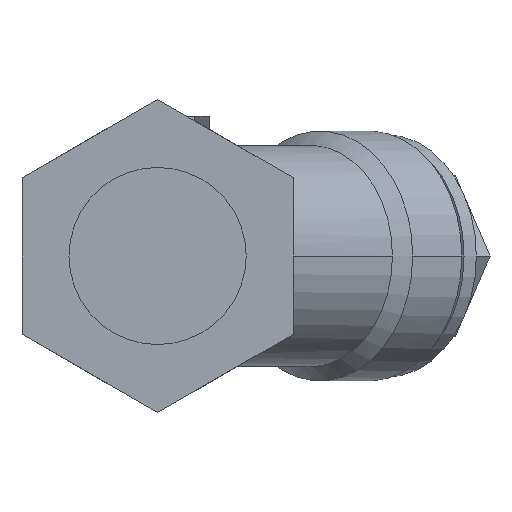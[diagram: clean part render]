
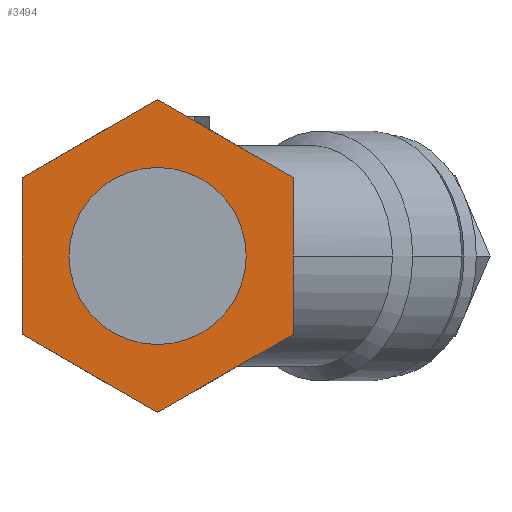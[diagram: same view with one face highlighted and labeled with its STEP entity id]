
A CAD part, left-side view. The second image highlights one B-rep face of the part: STEP entity #3494.
In plain terms, the highlighted planar face has unit normal (-1, 0, 0).
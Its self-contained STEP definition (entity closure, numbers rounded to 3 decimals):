
#145 = DIRECTION ( 'NONE',  ( 0., -0.866, -0.5 ) ) ;
#146 = VECTOR ( 'NONE', #145, 1000. ) ;
#147 = CARTESIAN_POINT ( 'NONE',  ( -25., 18.45, -10.652 ) ) ;
#148 = LINE ( 'NONE', #147, #146 ) ;
#2838 = ORIENTED_EDGE ( 'NONE', *, *, #3039, .F. ) ;
#2844 = EDGE_LOOP ( 'NONE', ( #3576, #3628, #3629, #3630, #3584, #3585 ) ) ;
#3037 = VERTEX_POINT ( 'NONE', #5693 ) ;
#3039 = EDGE_CURVE ( 'NONE', #3037, #3040, #5692, .T. ) ;
#3040 = VERTEX_POINT ( 'NONE', #5687 ) ;
#3494 = ADVANCED_FACE ( 'NONE', ( #6656, #6655 ), #6654, .F. ) ;
#3495 = ORIENTED_EDGE ( 'NONE', *, *, #3496, .F. ) ;
#3496 = EDGE_CURVE ( 'NONE', #3040, #3037, #6649, .T. ) ;
#3497 = VERTEX_POINT ( 'NONE', #6711 ) ;
#3503 = EDGE_CURVE ( 'NONE', #3539, #3550, #6700, .T. ) ;
#3507 = EDGE_LOOP ( 'NONE', ( #3495, #2838 ) ) ;
#3513 = EDGE_CURVE ( 'NONE', #3514, #3539, #6688, .T. ) ;
#3514 = VERTEX_POINT ( 'NONE', #6684 ) ;
#3534 = VERTEX_POINT ( 'NONE', #6723 ) ;
#3539 = VERTEX_POINT ( 'NONE', #6716 ) ;
#3549 = EDGE_CURVE ( 'NONE', #3550, #3497, #6772, .T. ) ;
#3550 = VERTEX_POINT ( 'NONE', #6768 ) ;
#3560 = EDGE_CURVE ( 'NONE', #3561, #3534, #6757, .T. ) ;
#3561 = VERTEX_POINT ( 'NONE', #6753 ) ;
#3570 = EDGE_CURVE ( 'NONE', #3497, #3561, #6797, .T. ) ;
#3576 = ORIENTED_EDGE ( 'NONE', *, *, #3549, .T. ) ;
#3584 = ORIENTED_EDGE ( 'NONE', *, *, #3513, .T. ) ;
#3585 = ORIENTED_EDGE ( 'NONE', *, *, #3503, .T. ) ;
#3612 = EDGE_CURVE ( 'NONE', #3534, #3514, #148, .T. ) ;
#3628 = ORIENTED_EDGE ( 'NONE', *, *, #3570, .T. ) ;
#3629 = ORIENTED_EDGE ( 'NONE', *, *, #3560, .T. ) ;
#3630 = ORIENTED_EDGE ( 'NONE', *, *, #3612, .T. ) ;
#5687 = CARTESIAN_POINT ( 'NONE',  ( -25., 0., 12.06 ) ) ;
#5688 = DIRECTION ( 'NONE',  ( 0., 0., 1. ) ) ;
#5689 = DIRECTION ( 'NONE',  ( -1., 0., 0. ) ) ;
#5690 = CARTESIAN_POINT ( 'NONE',  ( -25., 0., 0. ) ) ;
#5691 = AXIS2_PLACEMENT_3D ( 'NONE', #5690, #5689, #5688 ) ;
#5692 = CIRCLE ( 'NONE', #5691, 12.06 ) ;
#5693 = CARTESIAN_POINT ( 'NONE',  ( -25., 0., -12.06 ) ) ;
#6649 = CIRCLE ( 'NONE', #6715, 12.06 ) ;
#6650 = DIRECTION ( 'NONE',  ( 0., 0., -1. ) ) ;
#6651 = DIRECTION ( 'NONE',  ( 1., 0., 0. ) ) ;
#6652 = CARTESIAN_POINT ( 'NONE',  ( -25., 0., 0. ) ) ;
#6653 = AXIS2_PLACEMENT_3D ( 'NONE', #6652, #6651, #6650 ) ;
#6654 = PLANE ( 'NONE',  #6653 ) ;
#6655 = FACE_OUTER_BOUND ( 'NONE', #2844, .T. ) ;
#6656 = FACE_BOUND ( 'NONE', #3507, .T. ) ;
#6684 = CARTESIAN_POINT ( 'NONE',  ( -25., 0., -21.304 ) ) ;
#6685 = DIRECTION ( 'NONE',  ( 0., -0.866, 0.5 ) ) ;
#6686 = VECTOR ( 'NONE', #6685, 1000. ) ;
#6687 = CARTESIAN_POINT ( 'NONE',  ( -25., 0., -21.304 ) ) ;
#6688 = LINE ( 'NONE', #6687, #6686 ) ;
#6697 = DIRECTION ( 'NONE',  ( 0., 0., 1. ) ) ;
#6698 = VECTOR ( 'NONE', #6697, 1000. ) ;
#6699 = CARTESIAN_POINT ( 'NONE',  ( -25., -18.45, -10.652 ) ) ;
#6700 = LINE ( 'NONE', #6699, #6698 ) ;
#6711 = CARTESIAN_POINT ( 'NONE',  ( -25., 0., 21.304 ) ) ;
#6712 = DIRECTION ( 'NONE',  ( 0., 0., 1. ) ) ;
#6713 = DIRECTION ( 'NONE',  ( -1., 0., 0. ) ) ;
#6714 = CARTESIAN_POINT ( 'NONE',  ( -25., 0., 0. ) ) ;
#6715 = AXIS2_PLACEMENT_3D ( 'NONE', #6714, #6713, #6712 ) ;
#6716 = CARTESIAN_POINT ( 'NONE',  ( -25., -18.45, -10.652 ) ) ;
#6723 = CARTESIAN_POINT ( 'NONE',  ( -25., 18.45, -10.652 ) ) ;
#6753 = CARTESIAN_POINT ( 'NONE',  ( -25., 18.45, 10.652 ) ) ;
#6754 = DIRECTION ( 'NONE',  ( 0., 0., -1. ) ) ;
#6755 = VECTOR ( 'NONE', #6754, 1000. ) ;
#6756 = CARTESIAN_POINT ( 'NONE',  ( -25., 18.45, 10.652 ) ) ;
#6757 = LINE ( 'NONE', #6756, #6755 ) ;
#6768 = CARTESIAN_POINT ( 'NONE',  ( -25., -18.45, 10.652 ) ) ;
#6769 = DIRECTION ( 'NONE',  ( 0., 0.866, 0.5 ) ) ;
#6770 = VECTOR ( 'NONE', #6769, 1000. ) ;
#6771 = CARTESIAN_POINT ( 'NONE',  ( -25., -18.45, 10.652 ) ) ;
#6772 = LINE ( 'NONE', #6771, #6770 ) ;
#6794 = DIRECTION ( 'NONE',  ( 0., 0.866, -0.5 ) ) ;
#6795 = VECTOR ( 'NONE', #6794, 1000. ) ;
#6796 = CARTESIAN_POINT ( 'NONE',  ( -25., 0., 21.304 ) ) ;
#6797 = LINE ( 'NONE', #6796, #6795 ) ;
